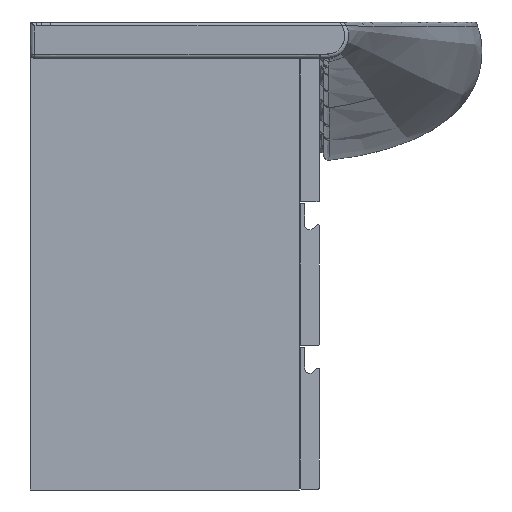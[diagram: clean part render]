
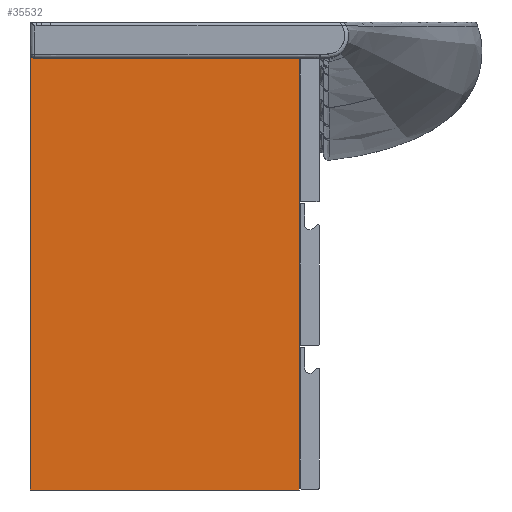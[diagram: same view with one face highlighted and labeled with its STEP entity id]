
A CAD part, left-side view. The second image highlights one B-rep face of the part: STEP entity #35532.
In plain terms, the highlighted planar face has unit normal (-1, 0, 0).
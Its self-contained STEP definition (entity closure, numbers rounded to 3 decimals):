
#3850=FACE_OUTER_BOUND('',#5529,.T.);
#5529=EDGE_LOOP('',(#33642,#33643,#33644,#33645));
#10874=LINE('',#142518,#13938);
#10875=LINE('',#142521,#13939);
#10878=LINE('',#142527,#13942);
#10879=LINE('',#142528,#13943);
#13938=VECTOR('',#51755,298.);
#13939=VECTOR('',#51758,473.);
#13942=VECTOR('',#51763,473.);
#13943=VECTOR('',#51764,298.);
#20368=VERTEX_POINT('',#142512);
#20370=VERTEX_POINT('',#142516);
#20371=VERTEX_POINT('',#142520);
#20373=VERTEX_POINT('',#142526);
#26873=EDGE_CURVE('',#20370,#20368,#10874,.T.);
#26874=EDGE_CURVE('',#20368,#20371,#10875,.T.);
#26877=EDGE_CURVE('',#20373,#20370,#10878,.T.);
#26878=EDGE_CURVE('',#20373,#20371,#10879,.T.);
#33642=ORIENTED_EDGE('',*,*,#26877,.F.);
#33643=ORIENTED_EDGE('',*,*,#26878,.T.);
#33644=ORIENTED_EDGE('',*,*,#26874,.F.);
#33645=ORIENTED_EDGE('',*,*,#26873,.F.);
#34175=PLANE('',#41713);
#35532=ADVANCED_FACE('',(#3850),#34175,.F.);
#41713=AXIS2_PLACEMENT_3D('',#142525,#51761,#51762);
#51755=DIRECTION('',(0.,1.,0.));
#51758=DIRECTION('',(0.,0.,1.));
#51761=DIRECTION('center_axis',(1.,0.,0.));
#51762=DIRECTION('ref_axis',(0.,0.,-1.));
#51763=DIRECTION('',(0.,0.,-1.));
#51764=DIRECTION('',(0.,1.,0.));
#142512=CARTESIAN_POINT('',(5559.836,-5168.898,-266.017));
#142516=CARTESIAN_POINT('',(5559.836,-5466.898,-266.017));
#142518=CARTESIAN_POINT('',(5559.836,-5466.898,-266.017));
#142520=CARTESIAN_POINT('',(5559.836,-5168.898,218.983));
#142521=CARTESIAN_POINT('',(5559.836,-5168.898,-254.017));
#142525=CARTESIAN_POINT('Origin',(5559.836,-5466.898,-254.017));
#142526=CARTESIAN_POINT('',(5559.836,-5466.898,218.983));
#142527=CARTESIAN_POINT('',(5559.836,-5466.898,218.983));
#142528=CARTESIAN_POINT('',(5559.836,-5466.898,218.983));
